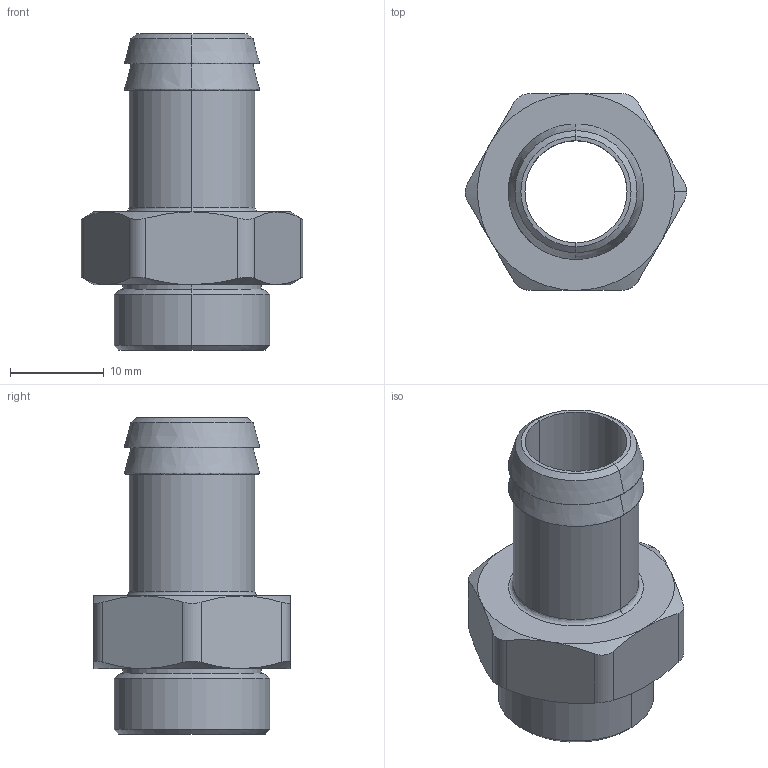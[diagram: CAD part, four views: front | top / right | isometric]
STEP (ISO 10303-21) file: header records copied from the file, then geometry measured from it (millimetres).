
FILE_DESCRIPTION(/* description */ (''),/* implementation_level */ '2;1');
FILE_NAME(/* name */ 'FIT_V13G38',/* time_stamp */ '2025-07-11T10:52:55+09:00',/* author */ (''),/* organization */ (''),/* preprocessor_version */ 'ST-DEVELOPER v19.2',/* originating_system */ 'Rhino 8.10',/* authorisation */ '');
FILE_SCHEMA (('CONFIG_CONTROL_DESIGN'));
Length unit declared in the file: millimetre
Products named in the file (1): Document
Bounding box: 23.63 x 21 x 33.75 mm (x, y, z)
Volume: 3753.8 mm3; surface area: 3512.7 mm2
Topology: 1 solids, 1 shells, 60 faces, 132 edges, 74 vertices
Faces by surface type: bspline 30, cylinder 16, plane 14
Entity records: 2315 total; most frequent: CARTESIAN_POINT 1211, ORIENTED_EDGE 264, EDGE_CURVE 132, DIRECTION 120, AXIS2_PLACEMENT_3D 75, VERTEX_POINT 74, EDGE_LOOP 62, ADVANCED_FACE 60
